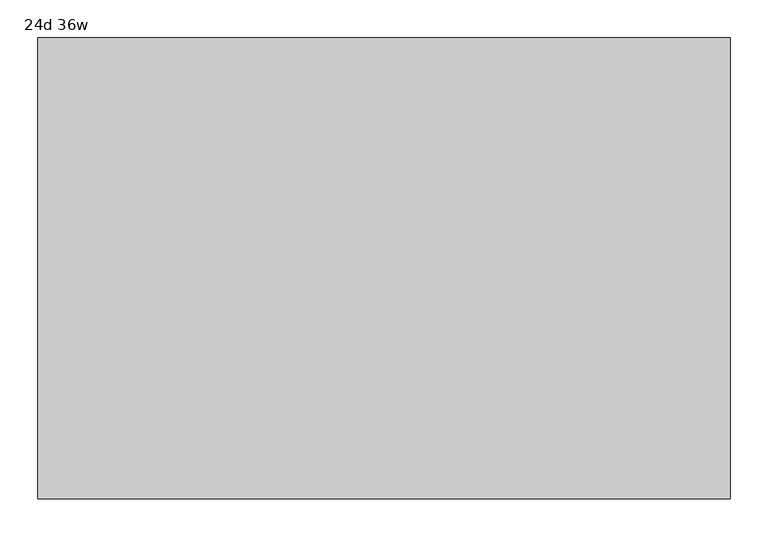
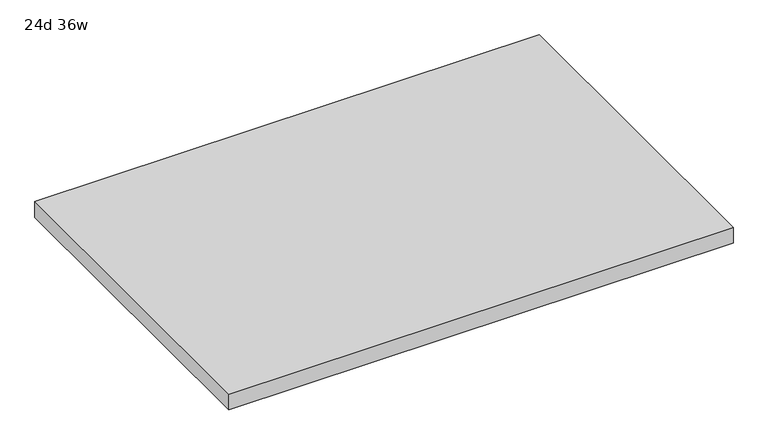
"""IFC4 building model written with IfcOpenShell, lengths in millimetres: furniture geometry, Haworth_Masters_StorageTop_Rectangular1 : 24d 36w."""

from ifc_helpers import new_model, si_unit, frame, origin, place, context, project, spatial, polyline, outline, extrude, source, transform, mapped, element, save


def furniture_24d_36w_c37be17f(model_context):
    return source(origin(), model_context, "Body", "SweptSolid", [
        extrude(outline(polyline([(280.9875, 407.9875), (280.9875, 1017.5875), (1195.3875, 1017.5875), (1195.3875, 407.9875), (280.9875, 407.9875)])), frame((0.0, 0.0, 693.7375), z_axis=(0.0, 0.0, 1.0), x_axis=(1.0, 0.0, 0.0)), (0.0, 0.0, 1.0), 30.1625),
    ])


if __name__ == "__main__":
    model = new_model("IFC4")
    model_context = context("Model", 3, world=origin())
    ifc_project = project(units=[si_unit("LENGTHUNIT", "METRE", prefix="MILLI")], contexts=[model_context])
    site = spatial("IfcSite", under=ifc_project)
    building = spatial("IfcBuilding", under=site)
    placement = place(None, origin())
    furniture_24d_36w_shape = furniture_24d_36w_c37be17f(model_context)
    element("IfcFurniture", 1, ObjectType="Haworth_Masters_StorageTop_Rectangular1 : 24d 36w", at=placement, inside=building, context=model_context, shape_type="MappedRepresentation", body=[
        mapped(furniture_24d_36w_shape, transform((0.0, 0.0, 0.0), x_axis=(1.0, 0.0, 0.0), y_axis=(0.0, 1.0, 0.0), z_axis=(0.0, 0.0, 1.0))),
    ])
    save(model, "model.ifc")
